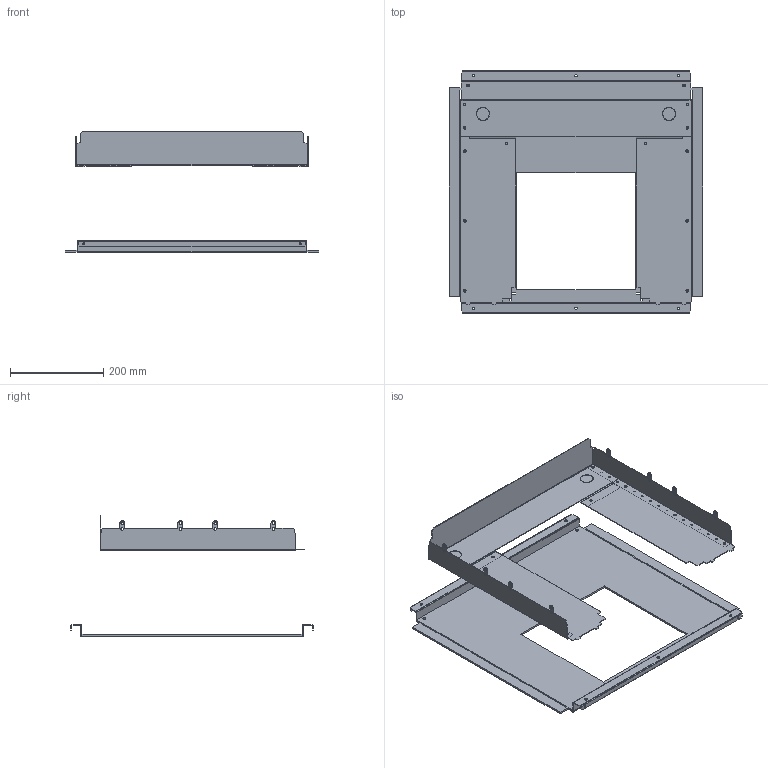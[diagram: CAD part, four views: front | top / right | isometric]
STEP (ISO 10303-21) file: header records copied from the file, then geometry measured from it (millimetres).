
FILE_DESCRIPTION(('CAx-IF Rec.Pracs.---Model Styling and Organization---1.2---2011-12-15','CAx-IF Rec.Pracs.---Geometric and Assembly Validation Properties---4.1---2014-06-16','CAx-IF Rec.Pracs.---PMI Polyline Presentation---2.0---2013-05-24'),'2;1');
FILE_NAME('R5FRC7V61521.stp','2021-07-29T02:05:20+03:00',(''),(''),'STEP Interface 4.4 by CT CoreTechnologie','3D_Evolution4.4 by CT CoreTechnologie','');
FILE_SCHEMA(('AUTOMOTIVE_DESIGN { 1 0 10303 214 1 1 1 1 }'));
Length unit declared in the file: millimetre
Products named in the file (1): R5FRC6V61521
Bounding box: 545 x 521 x 262 mm (x, y, z)
Surface area: 958729.3 mm2 (no closed solid volume)
Topology: 0 solids, 10 shells, 524 faces, 1472 edges, 968 vertices
Faces by surface type: plane 302, cylinder 222
Entity records: 17320 total; most frequent: DIRECTION 2966, CARTESIAN_POINT 2965, ORIENTED_EDGE 2944, EDGE_CURVE 1472, VECTOR 1028, LINE 1028, AXIS2_PLACEMENT_3D 969, VERTEX_POINT 968
